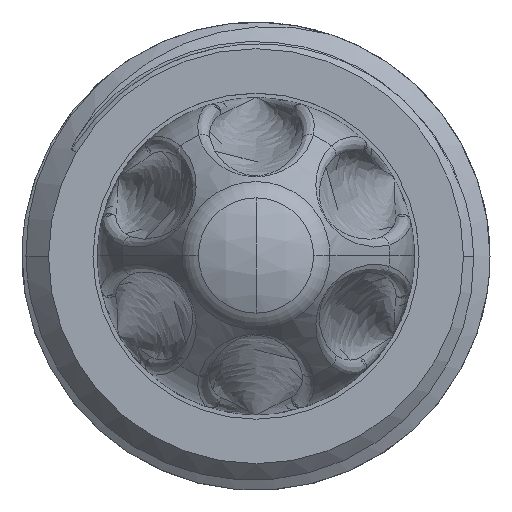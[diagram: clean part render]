
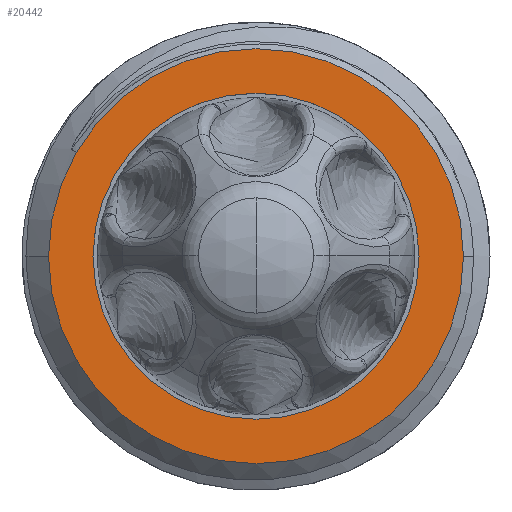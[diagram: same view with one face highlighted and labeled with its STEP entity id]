
A CAD part, top view. The second image highlights one B-rep face of the part: STEP entity #20442.
In plain terms, the highlighted planar face has unit normal (0, 0, 1).
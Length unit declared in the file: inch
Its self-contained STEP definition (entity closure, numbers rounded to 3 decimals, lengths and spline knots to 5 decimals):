
#1440 = DIRECTION ( 'NONE',  ( 1., 0., 0. ) ) ;
#1583 = DIRECTION ( 'NONE',  ( -1., 0., 0. ) ) ;
#2725 = VERTEX_POINT ( 'NONE', #15371 ) ;
#5570 = EDGE_CURVE ( 'NONE', #17868, #17576, #13142, .T. ) ;
#6081 = CIRCLE ( 'NONE', #19869, 0.26125 ) ;
#6524 = DIRECTION ( 'NONE',  ( 1., 0., 0. ) ) ;
#7230 = CARTESIAN_POINT ( 'NONE',  ( 0., 0., 0.0565 ) ) ;
#7409 = EDGE_LOOP ( 'NONE', ( #15980, #22815 ) ) ;
#7499 = EDGE_CURVE ( 'NONE', #2725, #22060, #6081, .T. ) ;
#8853 = FACE_BOUND ( 'NONE', #23799, .T. ) ;
#9481 = CIRCLE ( 'NONE', #18134, 0.3325 ) ;
#10825 = CARTESIAN_POINT ( 'NONE',  ( 0., 0., 0.0565 ) ) ;
#11125 = CARTESIAN_POINT ( 'NONE',  ( 0.3325, 0., 0.0565 ) ) ;
#12581 = DIRECTION ( 'NONE',  ( 0., 0., 1. ) ) ;
#12721 = CIRCLE ( 'NONE', #18606, 0.26125 ) ;
#12822 = DIRECTION ( 'NONE',  ( 1., 0., 0. ) ) ;
#13034 = DIRECTION ( 'NONE',  ( 0., 0., 1. ) ) ;
#13142 = CIRCLE ( 'NONE', #24164, 0.3325 ) ;
#14025 = ORIENTED_EDGE ( 'NONE', *, *, #7499, .F. ) ;
#14057 = CARTESIAN_POINT ( 'NONE',  ( -0.3325, 0., 0.0565 ) ) ;
#14246 = EDGE_CURVE ( 'NONE', #17576, #17868, #9481, .T. ) ;
#15371 = CARTESIAN_POINT ( 'NONE',  ( 0.26125, 0., 0.0565 ) ) ;
#15980 = ORIENTED_EDGE ( 'NONE', *, *, #5570, .T. ) ;
#16368 = FACE_OUTER_BOUND ( 'NONE', #7409, .T. ) ;
#17576 = VERTEX_POINT ( 'NONE', #11125 ) ;
#17868 = VERTEX_POINT ( 'NONE', #14057 ) ;
#18134 = AXIS2_PLACEMENT_3D ( 'NONE', #19591, #23427, #6524 ) ;
#18337 = DIRECTION ( 'NONE',  ( 0., 0., 1. ) ) ;
#18606 = AXIS2_PLACEMENT_3D ( 'NONE', #24255, #13034, #18934 ) ;
#18934 = DIRECTION ( 'NONE',  ( 1., 0., 0. ) ) ;
#18980 = ORIENTED_EDGE ( 'NONE', *, *, #20594, .F. ) ;
#19591 = CARTESIAN_POINT ( 'NONE',  ( 0., 0., 0.0565 ) ) ;
#19717 = AXIS2_PLACEMENT_3D ( 'NONE', #22159, #21797, #1583 ) ;
#19869 = AXIS2_PLACEMENT_3D ( 'NONE', #7230, #12581, #12822 ) ;
#20085 = CARTESIAN_POINT ( 'NONE',  ( -0.26125, 0., 0.0565 ) ) ;
#20442 = ADVANCED_FACE ( 'NONE', ( #8853, #16368 ), #23898, .F. ) ;
#20594 = EDGE_CURVE ( 'NONE', #22060, #2725, #12721, .T. ) ;
#21797 = DIRECTION ( 'NONE',  ( 0., 0., -1. ) ) ;
#22060 = VERTEX_POINT ( 'NONE', #20085 ) ;
#22159 = CARTESIAN_POINT ( 'NONE',  ( 0., 0.26125, 0.0565 ) ) ;
#22815 = ORIENTED_EDGE ( 'NONE', *, *, #14246, .T. ) ;
#23427 = DIRECTION ( 'NONE',  ( 0., 0., 1. ) ) ;
#23799 = EDGE_LOOP ( 'NONE', ( #14025, #18980 ) ) ;
#23898 = PLANE ( 'NONE',  #19717 ) ;
#24164 = AXIS2_PLACEMENT_3D ( 'NONE', #10825, #18337, #1440 ) ;
#24255 = CARTESIAN_POINT ( 'NONE',  ( 0., 0., 0.0565 ) ) ;
